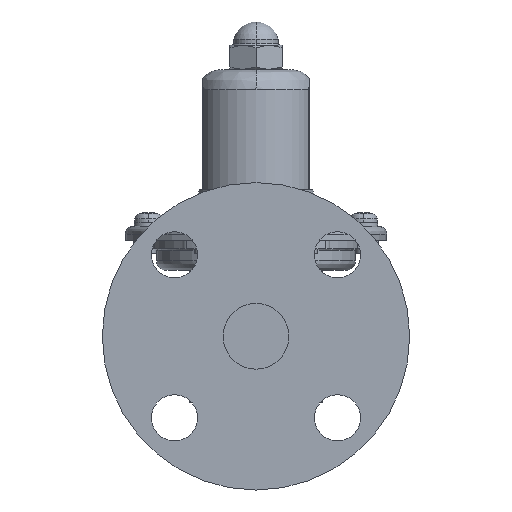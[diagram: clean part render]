
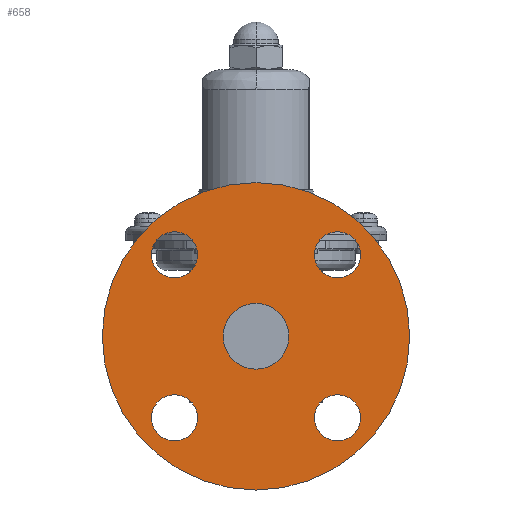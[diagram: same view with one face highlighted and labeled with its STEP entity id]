
A CAD part, left-side view. The second image highlights one B-rep face of the part: STEP entity #658.
In plain terms, the highlighted planar face has unit normal (-1, 0, 0).
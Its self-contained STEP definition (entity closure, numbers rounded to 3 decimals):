
#658=ADVANCED_FACE('',(#3624,#3625,#3626,#3627,#3628,#3629),#3623,.F.);
#3623=PLANE('',#8005);
#3624=FACE_OUTER_BOUND('',#8006,.T.);
#3625=FACE_BOUND('',#8007,.T.);
#3626=FACE_BOUND('',#8008,.T.);
#3627=FACE_BOUND('',#8009,.T.);
#3628=FACE_BOUND('',#8010,.T.);
#3629=FACE_BOUND('',#8011,.T.);
#8002=CARTESIAN_POINT('',(-97.5,-96.603,110.));
#8003=DIRECTION('',(1.,0.,0.));
#8004=DIRECTION('',(0.,0.,-1.));
#8005=AXIS2_PLACEMENT_3D('',#8002,#8003,#8004);
#8006=EDGE_LOOP('',(#10789,#10790));
#8007=EDGE_LOOP('',(#10791,#10792));
#8008=EDGE_LOOP('',(#10793,#10794));
#8009=EDGE_LOOP('',(#10795,#10796));
#8010=EDGE_LOOP('',(#10797,#10798));
#8011=EDGE_LOOP('',(#10799,#10800));
#10789=ORIENTED_EDGE('',*,*,#12605,.F.);
#10790=ORIENTED_EDGE('',*,*,#12606,.F.);
#10791=ORIENTED_EDGE('',*,*,#12607,.T.);
#10792=ORIENTED_EDGE('',*,*,#12608,.T.);
#10793=ORIENTED_EDGE('',*,*,#12609,.T.);
#10794=ORIENTED_EDGE('',*,*,#12610,.T.);
#10795=ORIENTED_EDGE('',*,*,#12611,.T.);
#10796=ORIENTED_EDGE('',*,*,#12612,.T.);
#10797=ORIENTED_EDGE('',*,*,#12613,.T.);
#10798=ORIENTED_EDGE('',*,*,#12614,.T.);
#10799=ORIENTED_EDGE('',*,*,#12615,.T.);
#10800=ORIENTED_EDGE('',*,*,#12616,.T.);
#12605=EDGE_CURVE('',#18325,#18326,#18327,.T.);
#12606=EDGE_CURVE('',#18326,#18325,#18333,.T.);
#12607=EDGE_CURVE('',#18339,#18340,#18341,.T.);
#12608=EDGE_CURVE('',#18340,#18339,#18347,.T.);
#12609=EDGE_CURVE('',#18353,#18354,#18355,.T.);
#12610=EDGE_CURVE('',#18354,#18353,#18361,.T.);
#12611=EDGE_CURVE('',#18367,#18368,#18369,.T.);
#12612=EDGE_CURVE('',#18368,#18367,#18375,.T.);
#12613=EDGE_CURVE('',#18381,#18382,#18383,.T.);
#12614=EDGE_CURVE('',#18382,#18381,#18389,.T.);
#12615=EDGE_CURVE('',#18395,#18396,#18397,.T.);
#12616=EDGE_CURVE('',#18396,#18395,#18403,.T.);
#18325=VERTEX_POINT('',#24907);
#18326=VERTEX_POINT('',#24908);
#18327=CIRCLE('',#24912,50.);
#18333=CIRCLE('',#24916,50.);
#18339=VERTEX_POINT('',#24917);
#18340=VERTEX_POINT('',#24918);
#18341=CIRCLE('',#24922,7.5);
#18347=CIRCLE('',#24926,7.5);
#18353=VERTEX_POINT('',#24927);
#18354=VERTEX_POINT('',#24928);
#18355=CIRCLE('',#24932,7.5);
#18361=CIRCLE('',#24936,7.5);
#18367=VERTEX_POINT('',#24937);
#18368=VERTEX_POINT('',#24938);
#18369=CIRCLE('',#24942,7.5);
#18375=CIRCLE('',#24946,7.5);
#18381=VERTEX_POINT('',#24947);
#18382=VERTEX_POINT('',#24948);
#18383=CIRCLE('',#24952,7.5);
#18389=CIRCLE('',#24956,7.5);
#18395=VERTEX_POINT('',#24957);
#18396=VERTEX_POINT('',#24958);
#18397=CIRCLE('',#24962,10.7);
#18403=CIRCLE('',#24966,10.7);
#24907=CARTESIAN_POINT('',(-97.5,0.,50.));
#24908=CARTESIAN_POINT('',(-97.5,0.,-50.));
#24909=CARTESIAN_POINT('',(-97.5,0.,0.));
#24910=DIRECTION('',(1.,0.,0.));
#24911=DIRECTION('',(0.,0.,-1.));
#24912=AXIS2_PLACEMENT_3D('',#24909,#24910,#24911);
#24913=CARTESIAN_POINT('',(-97.5,0.,0.));
#24914=DIRECTION('',(1.,0.,0.));
#24915=DIRECTION('',(0.,0.,-1.));
#24916=AXIS2_PLACEMENT_3D('',#24913,#24914,#24915);
#24917=CARTESIAN_POINT('',(-97.5,-26.517,34.017));
#24918=CARTESIAN_POINT('',(-97.5,-26.517,19.017));
#24919=CARTESIAN_POINT('',(-97.5,-26.517,26.517));
#24920=DIRECTION('',(1.,0.,0.));
#24921=DIRECTION('',(0.,0.,1.));
#24922=AXIS2_PLACEMENT_3D('',#24919,#24920,#24921);
#24923=CARTESIAN_POINT('',(-97.5,-26.517,26.517));
#24924=DIRECTION('',(1.,0.,0.));
#24925=DIRECTION('',(0.,0.,1.));
#24926=AXIS2_PLACEMENT_3D('',#24923,#24924,#24925);
#24927=CARTESIAN_POINT('',(-97.5,26.517,34.017));
#24928=CARTESIAN_POINT('',(-97.5,26.517,19.017));
#24929=CARTESIAN_POINT('',(-97.5,26.517,26.517));
#24930=DIRECTION('',(1.,0.,0.));
#24931=DIRECTION('',(0.,0.,1.));
#24932=AXIS2_PLACEMENT_3D('',#24929,#24930,#24931);
#24933=CARTESIAN_POINT('',(-97.5,26.517,26.517));
#24934=DIRECTION('',(1.,0.,0.));
#24935=DIRECTION('',(0.,0.,1.));
#24936=AXIS2_PLACEMENT_3D('',#24933,#24934,#24935);
#24937=CARTESIAN_POINT('',(-97.5,26.517,-19.017));
#24938=CARTESIAN_POINT('',(-97.5,26.517,-34.017));
#24939=CARTESIAN_POINT('',(-97.5,26.517,-26.517));
#24940=DIRECTION('',(1.,0.,0.));
#24941=DIRECTION('',(0.,0.,1.));
#24942=AXIS2_PLACEMENT_3D('',#24939,#24940,#24941);
#24943=CARTESIAN_POINT('',(-97.5,26.517,-26.517));
#24944=DIRECTION('',(1.,0.,0.));
#24945=DIRECTION('',(0.,0.,1.));
#24946=AXIS2_PLACEMENT_3D('',#24943,#24944,#24945);
#24947=CARTESIAN_POINT('',(-97.5,-26.517,-19.017));
#24948=CARTESIAN_POINT('',(-97.5,-26.517,-34.017));
#24949=CARTESIAN_POINT('',(-97.5,-26.517,-26.517));
#24950=DIRECTION('',(1.,0.,0.));
#24951=DIRECTION('',(0.,0.,1.));
#24952=AXIS2_PLACEMENT_3D('',#24949,#24950,#24951);
#24953=CARTESIAN_POINT('',(-97.5,-26.517,-26.517));
#24954=DIRECTION('',(1.,0.,0.));
#24955=DIRECTION('',(0.,0.,1.));
#24956=AXIS2_PLACEMENT_3D('',#24953,#24954,#24955);
#24957=CARTESIAN_POINT('',(-97.5,0.,10.7));
#24958=CARTESIAN_POINT('',(-97.5,0.,-10.7));
#24959=CARTESIAN_POINT('',(-97.5,0.,0.));
#24960=DIRECTION('',(1.,0.,0.));
#24961=DIRECTION('',(0.,0.,1.));
#24962=AXIS2_PLACEMENT_3D('',#24959,#24960,#24961);
#24963=CARTESIAN_POINT('',(-97.5,0.,0.));
#24964=DIRECTION('',(1.,0.,0.));
#24965=DIRECTION('',(0.,0.,1.));
#24966=AXIS2_PLACEMENT_3D('',#24963,#24964,#24965);
